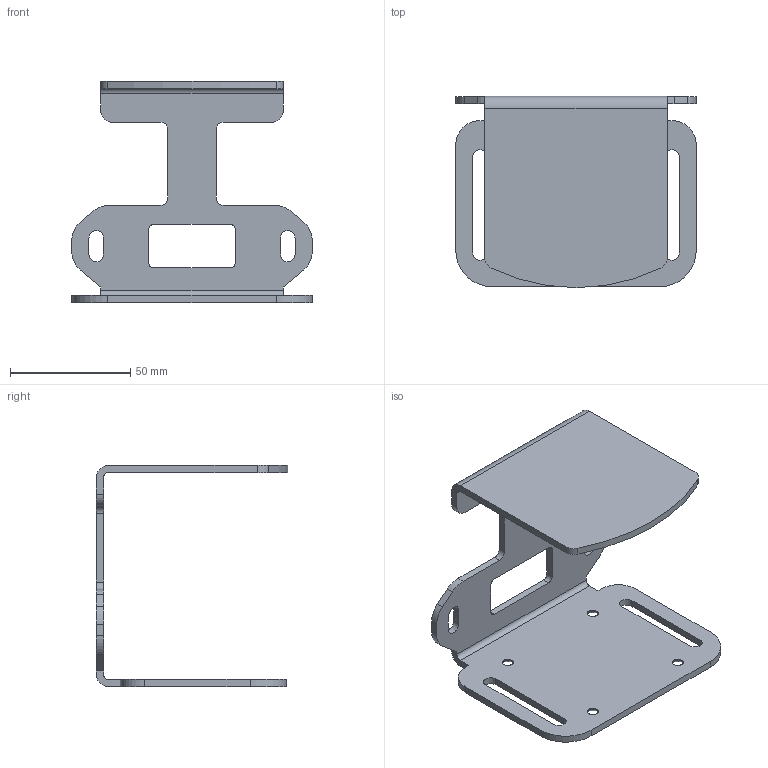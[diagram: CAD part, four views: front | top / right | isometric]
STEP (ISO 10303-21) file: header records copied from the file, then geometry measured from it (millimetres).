
FILE_DESCRIPTION((''),'2;1');
FILE_NAME('LS-ZJ-FZ','2026-04-07T09:47:46',('LENOVO'),(''),'CREO PARAMETRIC BY PTC INC, 2023073','CREO PARAMETRIC BY PTC INC, 2023073','');
FILE_SCHEMA(('CONFIG_CONTROL_DESIGN'));
Length unit declared in the file: millimetre
Products named in the file (1): LS-ZJ-FZ
Bounding box: 100 x 79.6 x 92 mm (x, y, z)
Volume: 50393.3 mm3; surface area: 37279.5 mm2
Topology: 1 solids, 1 shells, 90 faces, 258 edges, 170 vertices
Faces by surface type: cylinder 47, plane 35, cone 8
Entity records: 3052 total; most frequent: DIRECTION 542, CARTESIAN_POINT 518, ORIENTED_EDGE 516, EDGE_CURVE 258, AXIS2_PLACEMENT_3D 194, VERTEX_POINT 170, VECTOR 154, LINE 154
